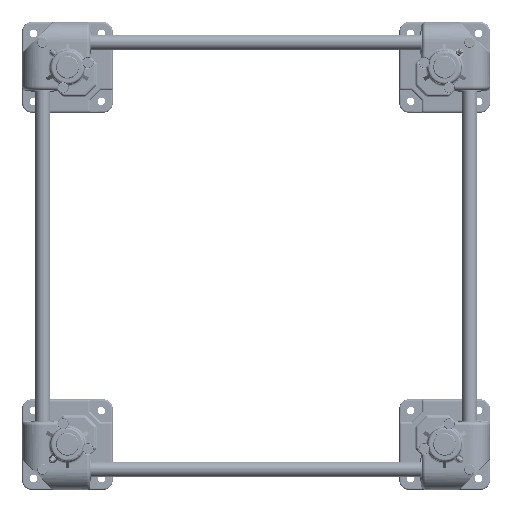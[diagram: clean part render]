
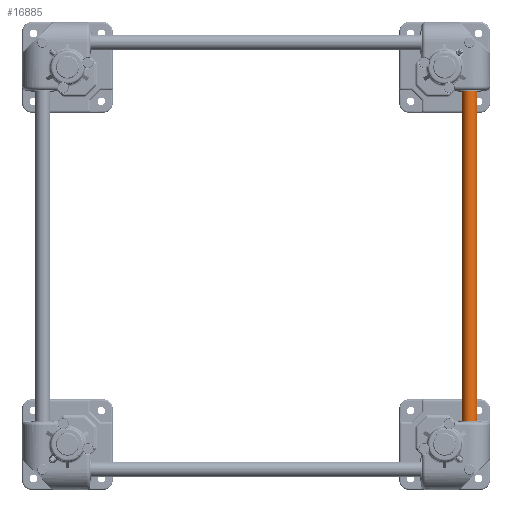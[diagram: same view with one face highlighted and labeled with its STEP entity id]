
A CAD part, top view. The second image highlights one B-rep face of the part: STEP entity #16885.
In plain terms, the highlighted cylindrical face has radius 10 mm (diameter 20 mm), a full revolution.
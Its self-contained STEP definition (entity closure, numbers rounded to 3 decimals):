
#16885=ADVANCED_FACE('',(#37913,#37914),#37915,.T.);
#37913=FACE_OUTER_BOUND('',#78776,.T.);
#37914=FACE_OUTER_BOUND('',#78777,.T.);
#37915=CYLINDRICAL_SURFACE('',#78778,10.0);
#78776=EDGE_LOOP('',(#164966));
#78777=EDGE_LOOP('',(#164967));
#78778=AXIS2_PLACEMENT_3D('',#164968,#164969,#164970);
#164966=ORIENTED_EDGE('',*,*,#193153,.T.);
#164967=ORIENTED_EDGE('',*,*,#193150,.T.);
#164968=CARTESIAN_POINT('',(0.0,0.0,537.4));
#164969=DIRECTION('',(0.0,0.0,-1.0));
#164970=DIRECTION('',(-1.0,0.0,0.0));
#193150=EDGE_CURVE('',#239806,#239806,#239807,.F.);
#193153=EDGE_CURVE('',#239812,#239812,#239813,.T.);
#239806=VERTEX_POINT('',#326658);
#239807=CIRCLE('',#326659,10.0);
#239812=VERTEX_POINT('',#326664);
#239813=CIRCLE('',#326665,10.0);
#326658=CARTESIAN_POINT('',(10.0,0.0,536.4));
#326659=AXIS2_PLACEMENT_3D('',#359194,#359195,#359196);
#326664=CARTESIAN_POINT('',(10.0,0.0,1.0));
#326665=AXIS2_PLACEMENT_3D('',#359203,#359204,#359205);
#359194=CARTESIAN_POINT('',(0.0,0.0,536.4));
#359195=DIRECTION('',(0.0,0.0,1.0));
#359196=DIRECTION('',(1.0,0.0,0.0));
#359203=CARTESIAN_POINT('',(0.0,0.0,1.0));
#359204=DIRECTION('',(0.0,0.0,1.0));
#359205=DIRECTION('',(1.0,0.0,0.0));
